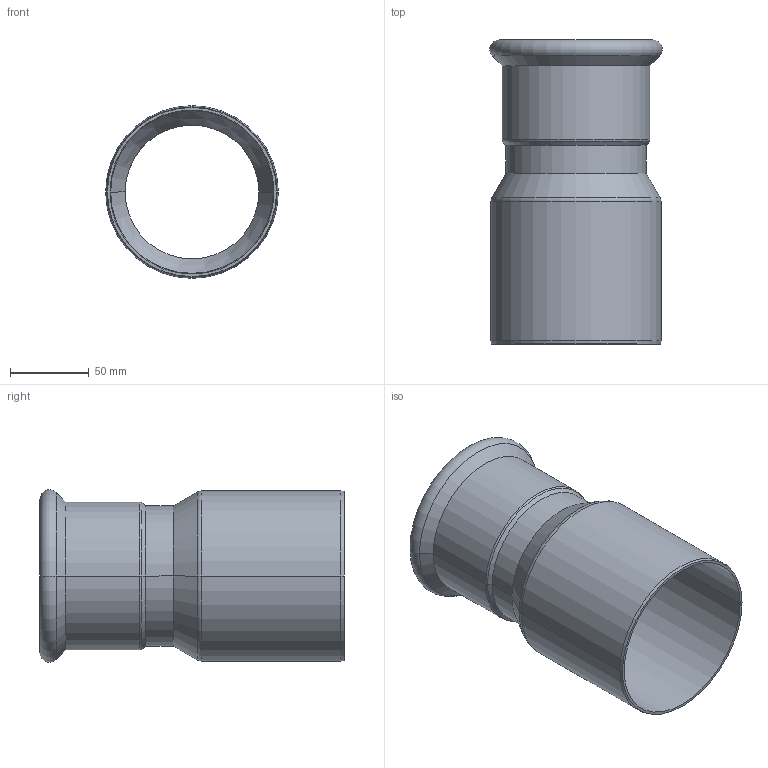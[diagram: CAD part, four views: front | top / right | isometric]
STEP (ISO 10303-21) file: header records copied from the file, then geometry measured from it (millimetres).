
FILE_DESCRIPTION(('CoCreate Modeling STEP Export'),'2;1');
FILE_NAME('C1407 88.9x108.stp','2014-11-07T16:39:50',(''),(''),'CoCreate Modeling STEP processor for AP214 (Solid Model)','CoCreate Modeling 17.00A 17-Jun-2010 (C) Parametric Technology GmbH','');
FILE_SCHEMA(('AUTOMOTIVE_DESIGN { 1 0 10303 214 1 1 1 1 }'));
Length unit declared in the file: millimetre
Products named in the file (2): C1407_89x108
Assembly tree (1 placements, depth 2):
  C1407_89x108
    C1407_89x108
Bounding box: 109.48 x 193 x 109.48 mm (x, y, z)
Volume: 149436.2 mm3; surface area: 126320.7 mm2
Topology: 1 solids, 1 shells, 36 faces, 73 edges, 41 vertices
Faces by surface type: cylinder 14, cone 10, torus 8, plane 4
Entity records: 806 total; most frequent: ORIENTED_EDGE 146, DIRECTION 124, CARTESIAN_POINT 115, EDGE_CURVE 73, AXIS2_PLACEMENT_3D 50, VERTEX_POINT 41, EDGE_LOOP 40, FACE_OUTER_BOUND 36
